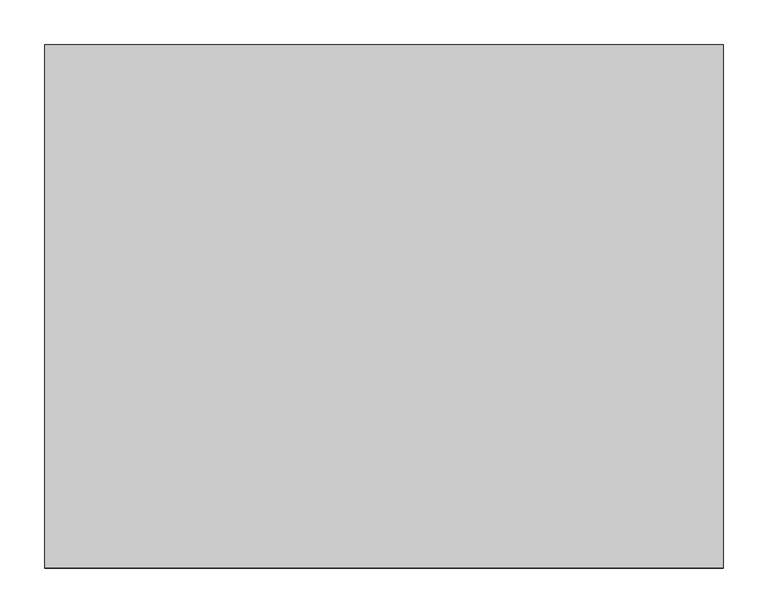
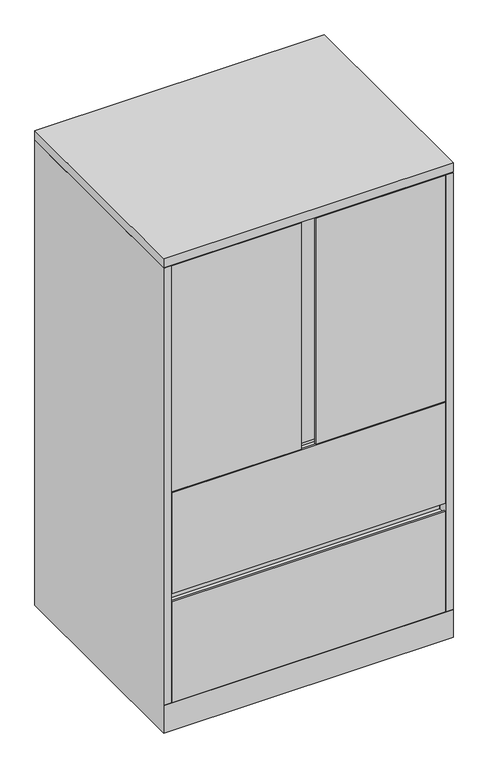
"""IFC4 building model written with IfcOpenShell, lengths in millimetres: furniture geometry, Steelcase - Universal Storage - Cabinet - Combination - Flush Steel : 52H - 2 Drawers - 23 1/8D x 30W."""

from ifc_helpers import new_model, si_unit, frame, origin, place, context, project, spatial, polyline, outline, extrude, faceted_brep, source, transform, mapped, element, save


def furniture_12f72c4d(model_context):
    return source(origin(), model_context, "Body", "SolidModel", [
        extrude(outline(polyline([(21.8068168, -561.975866), (741.172, -561.975866), (741.172, -587.502), (400.05, -587.502), (400.05, -583.185482), (413.2189152, -583.185482), (413.2189152, -568.3258781), (361.95, -568.3258781), (361.95, -587.502), (21.8068168, -587.502), (21.8068168, -561.975866)])), frame((0.0, 0.0, 663.956), z_axis=(0.0, 0.0, 1.0), x_axis=(1.0, 0.0, 0.0)), (0.0, 0.0, 1.0), 629.92),
        extrude(outline(polyline([(762.0, 0.0), (762.0, -587.502), (0.0, -587.502), (0.0, 0.0), (762.0, 0.0)])), frame((0.0, 0.0, 1295.3999516), z_axis=(0.0, 0.0, 1.0), x_axis=(1.0, 0.0, 0.0)), (0.0, 0.0, 1.0), 25.4000484),
        extrude(outline(polyline([(-587.502, 358.7750484), (-584.3262491, 358.7750484), (-584.3262491, 349.2500484), (-561.975866, 349.2500484), (-561.975866, 381.0), (-560.4518674, 381.0), (-560.4518674, 349.2500484), (-560.4518674, 77.724), (-587.502, 77.724), (-587.502, 358.7750484)])), frame((20.8280006, 0.0, 0.0), z_axis=(1.0, 0.0, 0.0), x_axis=(0.0, 1.0, 0.0)), (0.0, 0.0, 1.0), 720.3439994),
        extrude(outline(polyline([(736.6000242, -25.4000008), (736.6000242, -560.4518674), (25.4000008, -560.4518674), (25.4000008, -25.4000008), (736.6000242, -25.4000008)])), frame((0.0, 0.0, 965.3270484), z_axis=(0.0, 0.0, 1.0), x_axis=(1.0, 0.0, 0.0)), (0.0, 0.0, 1.0), 22.2249516),
        extrude(outline(polyline([(-587.502, 662.0510484), (-584.3262491, 662.0510484), (-584.3262491, 652.5260484), (-561.975866, 652.5260484), (-561.975866, 684.276), (-560.4518674, 684.276), (-560.4518674, 652.5260484), (-560.4518674, 381.0), (-587.502, 381.0), (-587.502, 662.0510484)])), frame((20.8280006, 0.0, 0.0), z_axis=(1.0, 0.0, 0.0), x_axis=(0.0, 1.0, 0.0)), (0.0, 0.0, 1.0), 720.3439994),
        extrude(outline(polyline([(736.6000242, -25.4000008), (736.6000242, -560.4518674), (25.4000008, -560.4518674), (25.4000008, -25.4000008), (736.6000242, -25.4000008)])), frame((0.0, 0.0, 662.0510484), z_axis=(0.0, 0.0, 1.0), x_axis=(1.0, 0.0, 0.0)), (0.0, 0.0, 1.0), 22.2249516),
        faceted_brep([(762.0, 0.0, 0.0), (762.0, -587.502, 0.0), (0.0, -587.502, 0.0), (0.0, 0.0, 0.0), (0.0, 0.0, 1293.876), (762.0, 0.0, 1293.876), (0.0, -587.502, 76.2), (0.0, -587.502, 77.724), (0.0, -587.502, 1293.876), (762.0, -587.502, 76.2), (762.0, -587.502, 1293.876), (762.0, -587.502, 77.724), (736.6000242, -25.4000008, 1293.876), (736.6000242, -560.4518674, 1293.876), (741.172, -560.4518674, 1293.876), (741.172, -561.9758781, 1293.876), (742.696, -561.9758781, 1293.876), (742.696, -587.502, 1293.876), (19.304, -587.502, 1293.876), (19.304, -561.975866, 1293.876), (20.8280006, -561.975866, 1293.876), (20.8280006, -560.4518674, 1293.876), (25.4000008, -560.4518674, 1293.876), (25.4000008, -25.4000008, 1293.876), (19.304, -587.502, 77.724), (19.304, -568.198, 77.724), (742.696, -587.502, 77.724), (742.696, -568.0718418, 77.724), (736.6000242, -25.4000008, 77.724), (736.6000242, -560.4518674, 77.724), (741.172, -560.4518674, 77.724), (741.172, -561.9758781, 77.724), (742.696, -561.9758781, 77.724), (19.304, -561.975866, 77.724), (20.8280006, -561.975866, 77.724), (20.8280006, -560.4518674, 77.724), (25.4000008, -560.4518674, 77.724), (25.4000008, -25.4000008, 77.724), (25.526134, -561.975866, 77.724), (736.6000242, -561.975866, 77.724)], [[[0, 1, 2, 3]], [[0, 3, 4, 5]], [[4, 3, 2, 6, 7, 8]], [[2, 1, 9, 6]], [[1, 0, 5, 10, 11, 9]], [[12, 13, 14, 15, 16, 17, 10, 5, 4, 8, 18, 19, 20, 21, 22, 23]], [[24, 7, 25]], [[11, 26, 27]], [[13, 12, 28, 29]], [[14, 13, 29, 30]], [[15, 14, 30, 31]], [[16, 15, 31, 32]], [[17, 16, 32, 27, 26]], [[10, 17, 26, 11]], [[18, 8, 7, 24]], [[19, 18, 24, 25, 33]], [[20, 19, 33, 34]], [[21, 20, 34, 35]], [[22, 21, 35, 36]], [[23, 22, 36, 37]], [[12, 23, 37, 28]], [[38, 39, 27, 32, 31, 30, 29, 28, 37, 36, 35, 34, 33, 25]], [[7, 6, 38, 25]], [[39, 38, 6, 9]], [[39, 9, 11, 27]]]),
    ])


if __name__ == "__main__":
    model = new_model("IFC4")
    model_context = context("Model", 3, world=origin())
    ifc_project = project(units=[si_unit("LENGTHUNIT", "METRE", prefix="MILLI")], contexts=[model_context])
    site = spatial("IfcSite", under=ifc_project)
    building = spatial("IfcBuilding", under=site)
    placement = place(None, origin())
    furniture_shape = furniture_12f72c4d(model_context)
    element("IfcFurniture", 1, ObjectType="Steelcase - Universal Storage - Cabinet - Combination - Flush Steel : 52H - 2 Drawers - 23 1/8D x 30W", at=placement, inside=building, context=model_context, shape_type="MappedRepresentation", body=[
        mapped(furniture_shape, transform((0.0, 0.0, 0.0), x_axis=(1.0, 0.0, 0.0), y_axis=(0.0, 1.0, 0.0), z_axis=(0.0, 0.0, 1.0))),
    ])
    save(model, "model.ifc")
